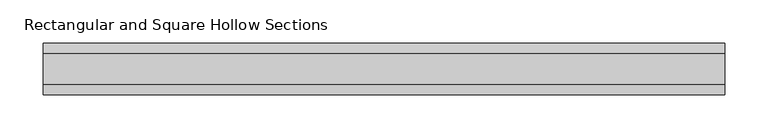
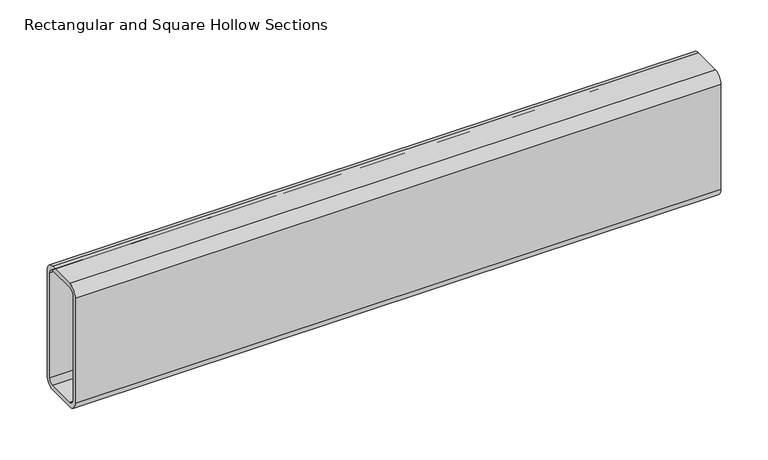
"""IFC4 building model written with IfcOpenShell, lengths in millimetres: beam geometry, Rectangular and Square Hollow Sections : TREC160x60x6."""

from ifc_helpers import new_model, si_unit, point, frame, frame_2d, origin, place, context, project, spatial, polyline, circle_curve, trimmed, segment, composite_curve, outline, extrude, source, transform, mapped, element, save


def rectangular_and_square_hollow_sections_1ebc4c57(model_context):
    return source(origin(), model_context, "Body", "SweptSolid", [
        extrude(outline(composite_curve([segment(polyline([(30.0, 68.0), (30.0, -68.0)]), True, "CONTINUOUS"), segment(trimmed(circle_curve(frame_2d((18.0, -68.0)), 12.0), [point((30.0, -68.0))], [point((18.0, -80.0))], False, "CARTESIAN"), True, "CONTINUOUS"), segment(polyline([(18.0, -80.0), (-18.0, -80.0)]), True, "CONTINUOUS"), segment(trimmed(circle_curve(frame_2d((-18.0, -68.0)), 12.0), [point((-18.0, -80.0))], [point((-30.0, -68.0))], False, "CARTESIAN"), True, "CONTINUOUS"), segment(polyline([(-30.0, -68.0), (-30.0, 68.0)]), True, "CONTINUOUS"), segment(trimmed(circle_curve(frame_2d((-18.0, 68.0)), 12.0), [point((-30.0, 68.0))], [point((-18.0, 80.0))], False, "CARTESIAN"), True, "CONTINUOUS"), segment(polyline([(-18.0, 80.0), (18.0, 80.0)]), True, "CONTINUOUS"), segment(trimmed(circle_curve(frame_2d((18.0, 68.0)), 12.0), [point((18.0, 80.0))], [point((30.0, 68.0))], False, "CARTESIAN"), True, "CONTINUOUS")], self_intersect=False), holes=[composite_curve([segment(trimmed(circle_curve(frame_2d((-18.0, 68.0)), 6.0), [point((-18.0, 74.0))], [point((-24.0, 68.0))], True, "CARTESIAN"), True, "CONTINUOUS"), segment(polyline([(-24.0, 68.0), (-24.0, -68.0)]), True, "CONTINUOUS"), segment(trimmed(circle_curve(frame_2d((-18.0, -68.0)), 6.0), [point((-24.0, -68.0))], [point((-18.0, -74.0))], True, "CARTESIAN"), True, "CONTINUOUS"), segment(polyline([(-18.0, -74.0), (18.0, -74.0)]), True, "CONTINUOUS"), segment(trimmed(circle_curve(frame_2d((18.0, -68.0)), 6.0), [point((18.0, -74.0))], [point((24.0, -68.0))], True, "CARTESIAN"), True, "CONTINUOUS"), segment(polyline([(24.0, -68.0), (24.0, 68.0)]), True, "CONTINUOUS"), segment(trimmed(circle_curve(frame_2d((18.0, 68.0)), 6.0), [point((24.0, 68.0))], [point((18.0, 74.0))], True, "CARTESIAN"), True, "CONTINUOUS"), segment(polyline([(18.0, 74.0), (-18.0, 74.0)]), True, "CONTINUOUS")], self_intersect=False)]), frame((-338.5, 0.0, 0.0), z_axis=(1.0, 0.0, 0.0), x_axis=(0.0, 1.0, 0.0)), (0.0, 0.0, 1.0), 791.0),
    ])


if __name__ == "__main__":
    model = new_model("IFC4")
    model_context = context("Model", 3, world=origin())
    ifc_project = project(units=[si_unit("LENGTHUNIT", "METRE", prefix="MILLI")], contexts=[model_context])
    site = spatial("IfcSite", under=ifc_project)
    building = spatial("IfcBuilding", under=site)
    placement = place(None, origin())
    rectangular_and_square_hollow_sections_shape = rectangular_and_square_hollow_sections_1ebc4c57(model_context)
    element("IfcBeam", 1, ObjectType="Rectangular and Square Hollow Sections : TREC160x60x6", at=placement, inside=building, context=model_context, shape_type="MappedRepresentation", body=[
        mapped(rectangular_and_square_hollow_sections_shape, transform((0.0, 0.0, 0.0), x_axis=(1.0, 0.0, 0.0), y_axis=(0.0, 1.0, 0.0), z_axis=(0.0, 0.0, 1.0))),
    ])
    save(model, "model.ifc")
